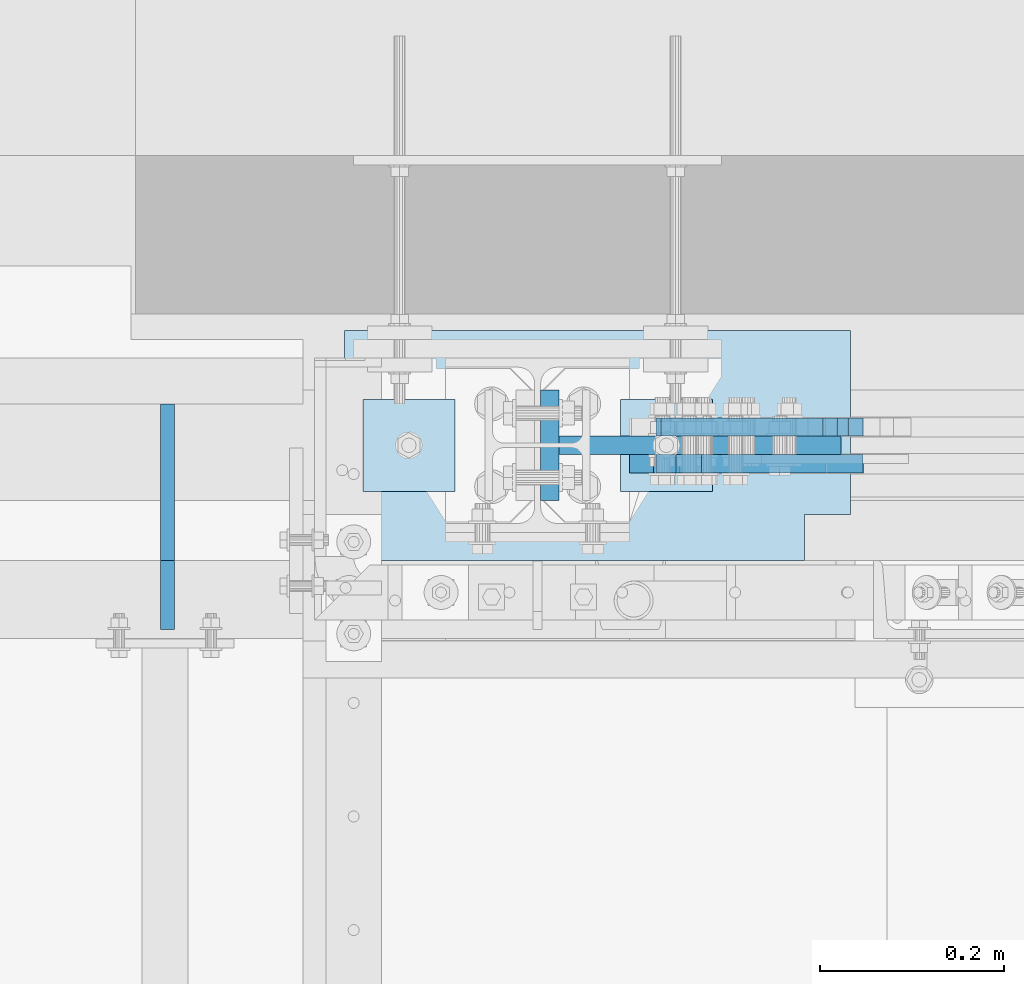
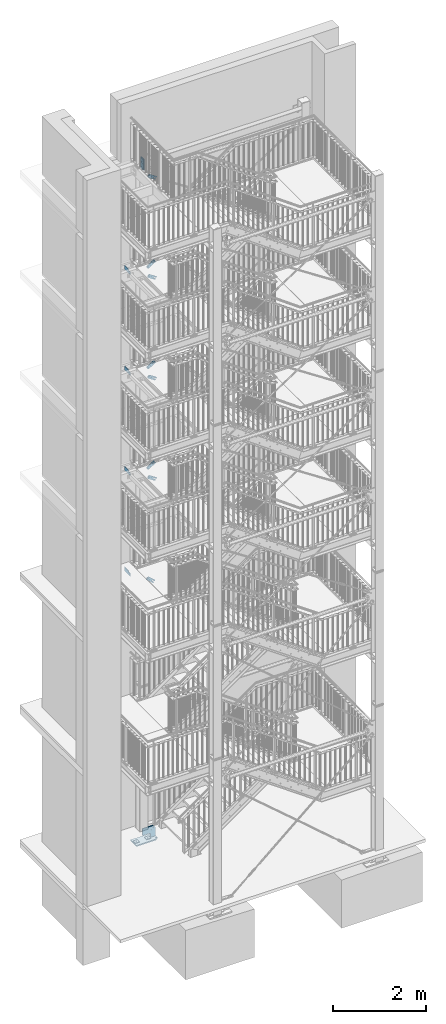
# One storey, part 180 of 825: 17 plates, 39 openings.
"""IFC2X3 building model written with IfcOpenShell, lengths in millimetres."""

from ifc_helpers import new_model, entity, si_unit, converted_unit, point, frame, frame_2d, origin, origin_with_axes, origin_2d_with_axis, place, context, project, spatial, polyline, circle_curve, line_curve, trimmed, segment, composite_curve, circle, outline, extrude, material, layer, layer_set, element, save


model = new_model("IFC2X3")

# Units and contexts
model_context = context("Model", 3, precision=1e-09, world=origin_with_axes())
ifc_project = project(units=[si_unit("LENGTHUNIT", "METRE", prefix="MILLI"), si_unit("AREAUNIT", "SQUARE_METRE"), si_unit("VOLUMEUNIT", "CUBIC_METRE"), converted_unit("PLANEANGLEUNIT", "DEGREE", entity("IfcPlaneAngleMeasure", 0.01745329), si_unit("PLANEANGLEUNIT", "RADIAN"), dimensions=[0, 0, 0, 0, 0, 0, 0])], contexts=[model_context])

# Site, building, storey
site_placement = place(None, origin_with_axes())
site = spatial("IfcSite", under=ifc_project, at=site_placement, Name="Cnopf'sche Kinderklinik", CompositionType="ELEMENT")
building_placement = place(site_placement, origin_with_axes())
building = spatial("IfcBuilding", under=site, at=building_placement, Name="Struktur 1", CompositionType="ELEMENT")
storey_placement = place(building_placement, origin_with_axes())
storey = spatial("IfcBuildingStorey", under=building, at=storey_placement, Name="Default Storey", CompositionType="ELEMENT", Elevation=0.0)

# Plate, opening
ifc_material = material(Name="S235JR")
ifc_layer_1 = layer(ifc_material, 12.0)
ifc_layer_set_1 = layer_set([ifc_layer_1], Name="S235JR")
plate_1_placement = place(None, frame((4996.713402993, 7516.736971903, 60.0), z_axis=(0.0, 0.0, 1.0), x_axis=(1.0, 0.0, 0.0)))
plate_1 = element("IfcPlate", 1, at=plate_1_placement, inside=storey, material=ifc_layer_set_1, Name="-", ObjectType="-", context=model_context, shape_type="SweptSolid", body=[
    extrude(outline(polyline([(-50.0, -50.0), (50.0, -50.0), (50.0, 50.0), (-50.0, 50.0), (-50.0, -50.0)])), origin_with_axes(), (0.0, 0.0, 1.0), 12.0),
])
opening_1_placement = place(plate_1_placement, frame((1e-09, 1e-09, -0.5), z_axis=(0.0, 0.0, 1.0), x_axis=(1.0, 0.0, 0.0)))
element("IfcOpeningElement", 2, at=opening_1_placement, cuts=plate_1, ObjectType="Opening", context=model_context, shape_type="SweptSolid", body=[
    extrude(circle(Radius=9.001, at=origin_2d_with_axis()), origin(), (0.0, 0.0, 1.0), 13.0),
])

plate_2_placement = place(None, frame((4716.713402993, 7516.736971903, 60.0), z_axis=(0.0, 0.0, 1.0), x_axis=(1.0, 0.0, 0.0)))
plate_2 = element("IfcPlate", 3, at=plate_2_placement, inside=storey, material=ifc_layer_set_1, Name="-", ObjectType="-", context=model_context, shape_type="SweptSolid", body=[
    extrude(outline(polyline([(-50.0, -50.0), (50.0, -50.0), (50.0, 50.0), (-50.0, 50.0), (-50.0, -50.0)])), origin_with_axes(), (0.0, 0.0, 1.0), 12.0),
])
opening_2_placement = place(plate_2_placement, frame((1e-09, 1e-09, -0.5), z_axis=(0.0, 0.0, 1.0), x_axis=(1.0, 0.0, 0.0)))
element("IfcOpeningElement", 4, at=opening_2_placement, cuts=plate_2, ObjectType="Opening", context=model_context, shape_type="SweptSolid", body=[
    extrude(circle(Radius=9.001, at=origin_2d_with_axis()), origin(), (0.0, 0.0, 1.0), 13.0),
])

# Plate, openings
ifc_layer_2 = layer(ifc_material, 30.0)
ifc_layer_set_2 = layer_set([ifc_layer_2], Name="S235JR")
plate_3_placement = place(None, frame((4921.713402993, 7516.736971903, 30.0), z_axis=(0.0, 0.0, 1.0), x_axis=(1.0, 0.0, 0.0)))
plate_3 = element("IfcPlate", 5, at=plate_3_placement, inside=storey, material=ifc_layer_set_2, Name="-", ObjectType="-", context=model_context, shape_type="SweptSolid", body=[
    extrude(outline(polyline([(-275.0, -125.0), (275.0, -125.0), (275.0, 125.0), (-275.0, 125.0), (-275.0, -125.0)])), origin_with_axes(), (0.0, 0.0, 1.0), 30.0),
])
opening_3_placement = place(plate_3_placement, frame((-65.0, 0.0, -0.5), z_axis=(0.0, 0.0, 1.0), x_axis=(1.0, 0.0, 0.0)))
element("IfcOpeningElement", 6, at=opening_3_placement, cuts=plate_3, ObjectType="Opening", context=model_context, shape_type="SweptSolid", body=[
    extrude(circle(Radius=28.001, at=frame_2d((140.0, 0.0), x_axis=(1.0, 0.0))), origin(), (0.0, 0.0, 1.0), 31.0),
])
opening_4_placement = place(plate_3_placement, frame((-65.0, 0.0, -0.5), z_axis=(0.0, 0.0, 1.0), x_axis=(1.0, 0.0, 0.0)))
element("IfcOpeningElement", 7, at=opening_4_placement, cuts=plate_3, ObjectType="Opening", context=model_context, shape_type="SweptSolid", body=[
    extrude(circle(Radius=28.001, at=frame_2d((-140.0, 0.0), x_axis=(1.0, 0.0))), origin(), (0.0, 0.0, 1.0), 31.0),
])
opening_5_placement = place(plate_3_placement, frame((0.0, 0.0, -0.1), z_axis=(0.0, 0.0, 1.0), x_axis=(1.0, 0.0, 0.0)))
element("IfcOpeningElement", 8, at=opening_5_placement, cuts=plate_3, ObjectType="Opening", context=model_context, shape_type="SweptSolid", body=[
    extrude(outline(polyline([(224.999, -185.913522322), (358.335332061, -185.913522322), (358.335332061, -74.999), (224.999, -74.999), (224.999, -185.913522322)])), origin(), (0.0, 0.0, 1.0), 30.2),
])

ifc_layer_3 = layer(ifc_material, 20.0)
ifc_layer_set_3 = layer_set([ifc_layer_3], Name="S235JR")
plate_4_placement = place(None, frame((5023.338402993, 7526.736971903, 206.477386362), z_axis=(0.0, -1.0, 0.0), x_axis=(1.0, 0.0, 0.0)))
plate_4 = element("IfcPlate", 9, at=plate_4_placement, inside=storey, material=ifc_layer_set_3, Name="-", ObjectType="-", context=model_context, shape_type="SweptSolid", body=[
    extrude(outline(polyline([(-163.375, -146.477386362), (163.375, -146.477386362), (163.375, 146.477386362), (-163.375, 146.477386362), (-163.375, -146.477386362)])), origin_with_axes(), (0.0, 0.0, 1.0), 20.0),
])
opening_6_placement = place(plate_4_placement, frame((0.0, 0.0, -0.1), z_axis=(0.0, 0.0, 1.0), x_axis=(1.0, 0.0, 0.0)))
element("IfcOpeningElement", 10, at=opening_6_placement, cuts=plate_4, ObjectType="Opening", context=model_context, shape_type="SweptSolid", body=[
    extrude(outline(composite_curve([segment(trimmed(circle_curve(frame_2d((-198.468160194, -200.200309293), x_axis=(1.0, 0.0)), 40.0), [point((-238.468160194, -200.200309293))], [point((-198.468160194, -240.200309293))], True, "CARTESIAN"), True, "CONTINUOUS"), segment(trimmed(line_curve((-198.468160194, -240.200309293), (1.0, 0.0), 201.844160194), [point((-198.468160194, -240.200309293))], [point((3.376, -240.200309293))], True, "CARTESIAN"), True, "CONTINUOUS"), segment(trimmed(circle_curve(frame_2d((3.376, -200.200309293), x_axis=(1.0, 0.0)), 40.0), [point((3.376, -240.200309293))], [point((43.376, -200.200309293))], True, "CARTESIAN"), True, "CONTINUOUS"), segment(trimmed(line_curve((43.376, -200.200309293), (0.0, 1.0), 126.678695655), [point((43.376, -200.200309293))], [point((43.376, -73.521613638))], True, "CARTESIAN"), True, "CONTINUOUS"), segment(trimmed(circle_curve(frame_2d((3.376, -73.521613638), x_axis=(1.0, 0.0)), 40.0), [point((43.376, -73.521613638))], [point((3.376, -33.521613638))], True, "CARTESIAN"), True, "CONTINUOUS"), segment(trimmed(line_curve((3.376, -33.521613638), (-1.0, 0.0), 201.844160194), [point((3.376, -33.521613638))], [point((-198.468160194, -33.521613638))], True, "CARTESIAN"), True, "CONTINUOUS"), segment(trimmed(circle_curve(frame_2d((-198.468160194, -73.521613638), x_axis=(1.0, 0.0)), 40.0), [point((-198.468160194, -33.521613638))], [point((-238.468160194, -73.521613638))], True, "CARTESIAN"), True, "CONTINUOUS"), segment(trimmed(line_curve((-238.468160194, -73.521613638), (0.0, -1.0), 126.678695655), [point((-238.468160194, -73.521613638))], [point((-238.468160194, -200.200309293))], True, "CARTESIAN"), True, "CONTINUOUS")], self_intersect=False)), origin(), (0.0, 0.0, 1.0), 20.2),
])
opening_7_placement = place(plate_4_placement, frame((0.0, 0.0, -0.1), z_axis=(0.0, 0.0, 1.0), x_axis=(1.0, 0.0, 0.0)))
element("IfcOpeningElement", 11, at=opening_7_placement, cuts=plate_4, ObjectType="Opening", context=model_context, shape_type="SweptSolid", body=[
    extrude(outline(polyline([(209.75372237, 203.90627729), (82.436636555, 172.110810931), (190.565352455, 45.142684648), (209.75372237, 203.90627729)])), origin(), (0.0, 0.0, 1.0), 20.2),
])
opening_8_placement = place(plate_4_placement, frame((84.230571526, 69.471100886, -0.5), z_axis=(0.0, 0.0, 1.0), x_axis=(0.757867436, 0.652408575, 0.0)))
element("IfcOpeningElement", 12, at=opening_8_placement, cuts=plate_4, ObjectType="Opening", context=model_context, shape_type="SweptSolid", body=[
    extrude(circle(Radius=9.001, at=frame_2d((30.0, 0.0), x_axis=(1.0, 0.0))), origin(), (0.0, 0.0, 1.0), 21.0),
])
opening_9_placement = place(plate_4_placement, frame((84.230571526, 69.471100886, -0.5), z_axis=(0.0, 0.0, 1.0), x_axis=(0.757867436, 0.652408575, 0.0)))
element("IfcOpeningElement", 13, at=opening_9_placement, cuts=plate_4, ObjectType="Opening", context=model_context, shape_type="SweptSolid", body=[
    extrude(circle(Radius=9.001, at=frame_2d((-30.0, 0.0), x_axis=(1.0, 0.0))), origin(), (0.0, 0.0, 1.0), 21.0),
])

plate_5_placement = place(None, frame((4879.963402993, 7516.736971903, 17753.999999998), z_axis=(1.0, 0.0, 0.0), x_axis=(0.0, 0.0, -1.0)))
plate_5 = element("IfcPlate", 14, at=plate_5_placement, inside=storey, material=ifc_layer_set_3, Name="Endplate", ObjectType="Endplate", context=model_context, shape_type="SweptSolid", body=[
    extrude(outline(polyline([(-150.0, -60.0), (150.0, -60.0), (150.0, 60.0), (-150.0, 60.0), (-150.0, -60.0)])), origin_with_axes(), (0.0, 0.0, -1.0), 20.0),
])
opening_10_placement = place(plate_5_placement, frame((-55.2, 18.1, -20.5), z_axis=(0.0, 0.0, 1.0), x_axis=(1.0, 0.0, 0.0)))
element("IfcOpeningElement", 15, at=opening_10_placement, cuts=plate_5, ObjectType="Opening", context=model_context, shape_type="SweptSolid", body=[
    extrude(circle(Radius=6.001, at=origin_2d_with_axis()), origin(), (0.0, 0.0, 1.0), 21.0),
])
opening_11_placement = place(plate_5_placement, frame((135.2, 18.1, -20.5), z_axis=(0.0, 0.0, 1.0), x_axis=(1.0, 0.0, 0.0)))
element("IfcOpeningElement", 16, at=opening_11_placement, cuts=plate_5, ObjectType="Opening", context=model_context, shape_type="SweptSolid", body=[
    extrude(circle(Radius=6.001, at=origin_2d_with_axis()), origin(), (0.0, 0.0, 1.0), 21.0),
])
opening_12_placement = place(plate_5_placement, frame((135.2, -18.1, -20.5), z_axis=(0.0, 0.0, 1.0), x_axis=(1.0, 0.0, 0.0)))
element("IfcOpeningElement", 17, at=opening_12_placement, cuts=plate_5, ObjectType="Opening", context=model_context, shape_type="SweptSolid", body=[
    extrude(circle(Radius=6.001, at=origin_2d_with_axis()), origin(), (0.0, 0.0, 1.0), 21.0),
])
opening_13_placement = place(plate_5_placement, frame((-55.2, -18.1, -20.5), z_axis=(0.0, 0.0, 1.0), x_axis=(1.0, 0.0, 0.0)))
element("IfcOpeningElement", 18, at=opening_13_placement, cuts=plate_5, ObjectType="Opening", context=model_context, shape_type="SweptSolid", body=[
    extrude(circle(Radius=6.001, at=origin_2d_with_axis()), origin(), (0.0, 0.0, 1.0), 21.0),
])
opening_14_placement = place(plate_5_placement, frame((-20.0, -35.0, 0.5), z_axis=(0.0, 0.0, -1.0), x_axis=(0.0, -1.0, 0.0)))
element("IfcOpeningElement", 19, at=opening_14_placement, cuts=plate_5, ObjectType="Opening", context=model_context, shape_type="SweptSolid", body=[
    extrude(circle(Radius=9.001, at=origin_2d_with_axis()), origin(), (0.0, 0.0, 1.0), 21.0),
])
opening_15_placement = place(plate_5_placement, frame((-120.0, -35.0, 0.5), z_axis=(0.0, 0.0, -1.0), x_axis=(0.0, -1.0, 0.0)))
element("IfcOpeningElement", 20, at=opening_15_placement, cuts=plate_5, ObjectType="Opening", context=model_context, shape_type="SweptSolid", body=[
    extrude(circle(Radius=9.001, at=origin_2d_with_axis()), origin(), (0.0, 0.0, 1.0), 21.0),
])
opening_16_placement = place(plate_5_placement, frame((-20.0, 35.0, 0.5), z_axis=(0.0, 0.0, -1.0), x_axis=(0.0, 1.0, 0.0)))
element("IfcOpeningElement", 21, at=opening_16_placement, cuts=plate_5, ObjectType="Opening", context=model_context, shape_type="SweptSolid", body=[
    extrude(circle(Radius=9.001, at=origin_2d_with_axis()), origin(), (0.0, 0.0, 1.0), 21.0),
])
opening_17_placement = place(plate_5_placement, frame((-120.0, 35.0, 0.5), z_axis=(0.0, 0.0, -1.0), x_axis=(0.0, 1.0, 0.0)))
element("IfcOpeningElement", 22, at=opening_17_placement, cuts=plate_5, ObjectType="Opening", context=model_context, shape_type="SweptSolid", body=[
    extrude(circle(Radius=9.001, at=origin_2d_with_axis()), origin(), (0.0, 0.0, 1.0), 21.0),
])
opening_18_placement = place(plate_5_placement, frame((100.0, -35.0, 0.5), z_axis=(0.0, 0.0, -1.0), x_axis=(0.0, -1.0, 0.0)))
element("IfcOpeningElement", 23, at=opening_18_placement, cuts=plate_5, ObjectType="Opening", context=model_context, shape_type="SweptSolid", body=[
    extrude(circle(Radius=9.001, at=origin_2d_with_axis()), origin(), (0.0, 0.0, 1.0), 21.0),
])
opening_19_placement = place(plate_5_placement, frame((100.0, 35.0, 0.5), z_axis=(0.0, 0.0, -1.0), x_axis=(0.0, 1.0, 0.0)))
element("IfcOpeningElement", 24, at=opening_19_placement, cuts=plate_5, ObjectType="Opening", context=model_context, shape_type="SweptSolid", body=[
    extrude(circle(Radius=9.001, at=origin_2d_with_axis()), origin(), (0.0, 0.0, 1.0), 21.0),
])

# Plate, opening
ifc_layer_4 = layer(ifc_material, 15.0)
ifc_layer_set_4 = layer_set([ifc_layer_4], Name="S235JR")
plate_6_placement = place(None, frame((4461.713402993, 7439.236971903, 7270.0), z_axis=(-1.0, 0.0, 0.0), x_axis=(0.0, -1.0, 0.0)))
plate_6 = element("IfcPlate", 25, at=plate_6_placement, inside=storey, material=ifc_layer_set_4, Name="-", ObjectType="-", context=model_context, shape_type="SweptSolid", body=[
    extrude(outline(polyline([(-122.5, -50.0), (122.5, -50.0), (122.5, 50.0), (-122.5, 50.0), (-122.5, -50.0)])), origin_with_axes(), (0.0, 0.0, 1.0), 15.0),
])
opening_20_placement = place(plate_6_placement, frame((0.0, 0.0, -0.1), z_axis=(0.0, 0.0, 1.0), x_axis=(1.0, 0.0, 0.0)))
element("IfcOpeningElement", 26, at=opening_20_placement, cuts=plate_6, ObjectType="Opening", context=model_context, shape_type="SweptSolid", body=[
    extrude(outline(composite_curve([segment(trimmed(circle_curve(frame_2d((57.499, 29.999), x_axis=(1.0, 0.0)), 10.0), [point((47.499, 29.999))], [point((57.499, 19.999))], True, "CARTESIAN"), True, "CONTINUOUS"), segment(trimmed(line_curve((57.499, 19.999), (1.0, 0.0), 93.063804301), [point((57.499, 19.999))], [point((150.562804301, 19.999))], True, "CARTESIAN"), True, "CONTINUOUS"), segment(trimmed(circle_curve(frame_2d((150.562804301, 29.999), x_axis=(1.0, 0.0)), 10.0), [point((150.562804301, 19.999))], [point((160.562804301, 29.999))], True, "CARTESIAN"), True, "CONTINUOUS"), segment(trimmed(line_curve((160.562804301, 29.999), (0.0, 1.0), 40.184858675), [point((160.562804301, 29.999))], [point((160.562804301, 70.183858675))], True, "CARTESIAN"), True, "CONTINUOUS"), segment(trimmed(circle_curve(frame_2d((150.562804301, 70.183858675), x_axis=(1.0, 0.0)), 10.0), [point((160.562804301, 70.183858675))], [point((150.562804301, 80.183858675))], True, "CARTESIAN"), True, "CONTINUOUS"), segment(trimmed(line_curve((150.562804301, 80.183858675), (-1.0, 0.0), 93.063804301), [point((150.562804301, 80.183858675))], [point((57.499, 80.183858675))], True, "CARTESIAN"), True, "CONTINUOUS"), segment(trimmed(circle_curve(frame_2d((57.499, 70.183858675), x_axis=(1.0, 0.0)), 10.0), [point((57.499, 80.183858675))], [point((47.499, 70.183858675))], True, "CARTESIAN"), True, "CONTINUOUS"), segment(trimmed(line_curve((47.499, 70.183858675), (0.0, -1.0), 40.184858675), [point((47.499, 70.183858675))], [point((47.499, 29.999))], True, "CARTESIAN"), True, "CONTINUOUS")], self_intersect=False)), origin(), (0.0, 0.0, 1.0), 15.2),
])

plate_7_placement = place(None, frame((4461.713402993, 7439.236971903, 9902.0), z_axis=(-1.0, 0.0, 0.0), x_axis=(0.0, -1.0, 0.0)))
plate_7 = element("IfcPlate", 27, at=plate_7_placement, inside=storey, material=ifc_layer_set_4, Name="-", ObjectType="-", context=model_context, shape_type="SweptSolid", body=[
    extrude(outline(polyline([(-122.5, -50.0), (122.5, -50.0), (122.5, 50.0), (-122.5, 50.0), (-122.5, -50.0)])), origin_with_axes(), (0.0, 0.0, 1.0), 15.0),
])
opening_21_placement = place(plate_7_placement, frame((0.0, 0.0, -0.1), z_axis=(0.0, 0.0, 1.0), x_axis=(1.0, 0.0, 0.0)))
element("IfcOpeningElement", 28, at=opening_21_placement, cuts=plate_7, ObjectType="Opening", context=model_context, shape_type="SweptSolid", body=[
    extrude(outline(composite_curve([segment(trimmed(circle_curve(frame_2d((57.499, 29.999), x_axis=(1.0, 0.0)), 10.0), [point((47.499, 29.999))], [point((57.499, 19.999))], True, "CARTESIAN"), True, "CONTINUOUS"), segment(trimmed(line_curve((57.499, 19.999), (1.0, 0.0), 93.063804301), [point((57.499, 19.999))], [point((150.562804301, 19.999))], True, "CARTESIAN"), True, "CONTINUOUS"), segment(trimmed(circle_curve(frame_2d((150.562804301, 29.999), x_axis=(1.0, 0.0)), 10.0), [point((150.562804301, 19.999))], [point((160.562804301, 29.999))], True, "CARTESIAN"), True, "CONTINUOUS"), segment(trimmed(line_curve((160.562804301, 29.999), (0.0, 1.0), 40.184858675), [point((160.562804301, 29.999))], [point((160.562804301, 70.183858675))], True, "CARTESIAN"), True, "CONTINUOUS"), segment(trimmed(circle_curve(frame_2d((150.562804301, 70.183858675), x_axis=(1.0, 0.0)), 10.0), [point((160.562804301, 70.183858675))], [point((150.562804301, 80.183858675))], True, "CARTESIAN"), True, "CONTINUOUS"), segment(trimmed(line_curve((150.562804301, 80.183858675), (-1.0, 0.0), 93.063804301), [point((150.562804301, 80.183858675))], [point((57.499, 80.183858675))], True, "CARTESIAN"), True, "CONTINUOUS"), segment(trimmed(circle_curve(frame_2d((57.499, 70.183858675), x_axis=(1.0, 0.0)), 10.0), [point((57.499, 80.183858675))], [point((47.499, 70.183858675))], True, "CARTESIAN"), True, "CONTINUOUS"), segment(trimmed(line_curve((47.499, 70.183858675), (0.0, -1.0), 40.184858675), [point((47.499, 70.183858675))], [point((47.499, 29.999))], True, "CARTESIAN"), True, "CONTINUOUS")], self_intersect=False)), origin(), (0.0, 0.0, 1.0), 15.2),
])

plate_8_placement = place(None, frame((4461.713402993, 7439.236971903, 12529.0), z_axis=(-1.0, 0.0, 0.0), x_axis=(0.0, -1.0, 0.0)))
plate_8 = element("IfcPlate", 29, at=plate_8_placement, inside=storey, material=ifc_layer_set_4, Name="-", ObjectType="-", context=model_context, shape_type="SweptSolid", body=[
    extrude(outline(polyline([(-122.5, -50.0), (122.5, -50.0), (122.5, 50.0), (-122.5, 50.0), (-122.5, -50.0)])), origin_with_axes(), (0.0, 0.0, 1.0), 15.0),
])
opening_22_placement = place(plate_8_placement, frame((0.0, 0.0, -0.1), z_axis=(0.0, 0.0, 1.0), x_axis=(1.0, 0.0, 0.0)))
element("IfcOpeningElement", 30, at=opening_22_placement, cuts=plate_8, ObjectType="Opening", context=model_context, shape_type="SweptSolid", body=[
    extrude(outline(composite_curve([segment(trimmed(circle_curve(frame_2d((57.499, 29.999), x_axis=(1.0, 0.0)), 10.0), [point((47.499, 29.999))], [point((57.499, 19.999))], True, "CARTESIAN"), True, "CONTINUOUS"), segment(trimmed(line_curve((57.499, 19.999), (1.0, 0.0), 93.063804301), [point((57.499, 19.999))], [point((150.562804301, 19.999))], True, "CARTESIAN"), True, "CONTINUOUS"), segment(trimmed(circle_curve(frame_2d((150.562804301, 29.999), x_axis=(1.0, 0.0)), 10.0), [point((150.562804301, 19.999))], [point((160.562804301, 29.999))], True, "CARTESIAN"), True, "CONTINUOUS"), segment(trimmed(line_curve((160.562804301, 29.999), (0.0, 1.0), 40.184858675), [point((160.562804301, 29.999))], [point((160.562804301, 70.183858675))], True, "CARTESIAN"), True, "CONTINUOUS"), segment(trimmed(circle_curve(frame_2d((150.562804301, 70.183858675), x_axis=(1.0, 0.0)), 10.0), [point((160.562804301, 70.183858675))], [point((150.562804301, 80.183858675))], True, "CARTESIAN"), True, "CONTINUOUS"), segment(trimmed(line_curve((150.562804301, 80.183858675), (-1.0, 0.0), 93.063804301), [point((150.562804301, 80.183858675))], [point((57.499, 80.183858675))], True, "CARTESIAN"), True, "CONTINUOUS"), segment(trimmed(circle_curve(frame_2d((57.499, 70.183858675), x_axis=(1.0, 0.0)), 10.0), [point((57.499, 80.183858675))], [point((47.499, 70.183858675))], True, "CARTESIAN"), True, "CONTINUOUS"), segment(trimmed(line_curve((47.499, 70.183858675), (0.0, -1.0), 40.184858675), [point((47.499, 70.183858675))], [point((47.499, 29.999))], True, "CARTESIAN"), True, "CONTINUOUS")], self_intersect=False)), origin(), (0.0, 0.0, 1.0), 15.2),
])

plate_9_placement = place(None, frame((4461.713402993, 7439.236971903, 15164.0), z_axis=(-1.0, 0.0, 0.0), x_axis=(0.0, -1.0, 0.0)))
plate_9 = element("IfcPlate", 31, at=plate_9_placement, inside=storey, material=ifc_layer_set_4, Name="-", ObjectType="-", context=model_context, shape_type="SweptSolid", body=[
    extrude(outline(polyline([(-122.5, -50.0), (122.5, -50.0), (122.5, 50.0), (-122.5, 50.0), (-122.5, -50.0)])), origin_with_axes(), (0.0, 0.0, 1.0), 15.0),
])
opening_23_placement = place(plate_9_placement, frame((0.0, 0.0, -0.1), z_axis=(0.0, 0.0, 1.0), x_axis=(1.0, 0.0, 0.0)))
element("IfcOpeningElement", 32, at=opening_23_placement, cuts=plate_9, ObjectType="Opening", context=model_context, shape_type="SweptSolid", body=[
    extrude(outline(composite_curve([segment(trimmed(circle_curve(frame_2d((57.499, 29.999), x_axis=(1.0, 0.0)), 10.0), [point((47.499, 29.999))], [point((57.499, 19.999))], True, "CARTESIAN"), True, "CONTINUOUS"), segment(trimmed(line_curve((57.499, 19.999), (1.0, 0.0), 93.063804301), [point((57.499, 19.999))], [point((150.562804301, 19.999))], True, "CARTESIAN"), True, "CONTINUOUS"), segment(trimmed(circle_curve(frame_2d((150.562804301, 29.999), x_axis=(1.0, 0.0)), 10.0), [point((150.562804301, 19.999))], [point((160.562804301, 29.999))], True, "CARTESIAN"), True, "CONTINUOUS"), segment(trimmed(line_curve((160.562804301, 29.999), (0.0, 1.0), 40.184858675), [point((160.562804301, 29.999))], [point((160.562804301, 70.183858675))], True, "CARTESIAN"), True, "CONTINUOUS"), segment(trimmed(circle_curve(frame_2d((150.562804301, 70.183858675), x_axis=(1.0, 0.0)), 10.0), [point((160.562804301, 70.183858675))], [point((150.562804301, 80.183858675))], True, "CARTESIAN"), True, "CONTINUOUS"), segment(trimmed(line_curve((150.562804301, 80.183858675), (-1.0, 0.0), 93.063804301), [point((150.562804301, 80.183858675))], [point((57.499, 80.183858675))], True, "CARTESIAN"), True, "CONTINUOUS"), segment(trimmed(circle_curve(frame_2d((57.499, 70.183858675), x_axis=(1.0, 0.0)), 10.0), [point((57.499, 80.183858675))], [point((47.499, 70.183858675))], True, "CARTESIAN"), True, "CONTINUOUS"), segment(trimmed(line_curve((47.499, 70.183858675), (0.0, -1.0), 40.184858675), [point((47.499, 70.183858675))], [point((47.499, 29.999))], True, "CARTESIAN"), True, "CONTINUOUS")], self_intersect=False)), origin(), (0.0, 0.0, 1.0), 15.2),
])

# Plate, openings
plate_10_placement = place(None, frame((5136.378489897, 7506.736971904, 6728.234258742), z_axis=(0.0, 1.0, 0.0), x_axis=(-0.654679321, 0.0, -0.755906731)))
plate_10 = element("IfcPlate", 33, at=plate_10_placement, inside=storey, material=ifc_layer_set_3, Name="-", ObjectType="-", context=model_context, shape_type="SweptSolid", body=[
    extrude(outline(polyline([(0.0, 0.0), (29.0, 0.0), (29.0, 210.0), (9.0, 230.0), (-31.0, 230.0), (-51.0, 210.0), (-51.0, 0.0), (-22.0, 0.0), (-22.0, 80.0), (0.0, 80.0), (0.0, 0.0)])), origin_with_axes(), (0.0, 0.0, -1.0), 20.0),
])
opening_24_placement = place(plate_10_placement, frame((-11.0, 149.001, 0.5), z_axis=(0.0, 0.0, 1.0), x_axis=(1.0, 0.0, 0.0)))
element("IfcOpeningElement", 34, at=opening_24_placement, cuts=plate_10, ObjectType="Opening", context=model_context, shape_type="SweptSolid", body=[
    extrude(circle(Radius=9.001, at=frame_2d((0.0, -9.001), x_axis=(1.0, 0.0))), origin(), (0.0, 0.0, -1.0), 21.0),
])
opening_25_placement = place(plate_10_placement, frame((-11.0, 209.001, 0.5), z_axis=(0.0, 0.0, 1.0), x_axis=(1.0, 0.0, 0.0)))
element("IfcOpeningElement", 35, at=opening_25_placement, cuts=plate_10, ObjectType="Opening", context=model_context, shape_type="SweptSolid", body=[
    extrude(circle(Radius=9.001, at=frame_2d((0.0, -9.001), x_axis=(1.0, 0.0))), origin(), (0.0, 0.0, -1.0), 21.0),
])

plate_11_placement = place(None, frame((5182.60391541, 7506.736971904, 9389.94099275), z_axis=(0.0, 1.0, 0.0), x_axis=(-0.548720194, 0.0, -0.83600607)))
plate_11 = element("IfcPlate", 36, at=plate_11_placement, inside=storey, material=ifc_layer_set_3, Name="-", ObjectType="-", context=model_context, shape_type="SweptSolid", body=[
    extrude(outline(polyline([(0.0, 0.0), (29.0, 0.0), (29.0, 210.0), (9.0, 230.0), (-31.0, 230.0), (-51.0, 210.0), (-51.0, 0.0), (-22.0, 0.0), (-22.0, 80.0), (0.0, 80.0), (0.0, 0.0)])), origin_with_axes(), (0.0, 0.0, -1.0), 20.0),
])
opening_26_placement = place(plate_11_placement, frame((-11.0, 149.001, 0.5), z_axis=(0.0, 0.0, 1.0), x_axis=(1.0, 0.0, 0.0)))
element("IfcOpeningElement", 37, at=opening_26_placement, cuts=plate_11, ObjectType="Opening", context=model_context, shape_type="SweptSolid", body=[
    extrude(circle(Radius=9.001, at=frame_2d((0.0, -9.001), x_axis=(1.0, 0.0))), origin(), (0.0, 0.0, -1.0), 21.0),
])
opening_27_placement = place(plate_11_placement, frame((-11.0, 209.001, 0.5), z_axis=(0.0, 0.0, 1.0), x_axis=(1.0, 0.0, 0.0)))
element("IfcOpeningElement", 38, at=opening_27_placement, cuts=plate_11, ObjectType="Opening", context=model_context, shape_type="SweptSolid", body=[
    extrude(circle(Radius=9.001, at=frame_2d((0.0, -9.001), x_axis=(1.0, 0.0))), origin(), (0.0, 0.0, -1.0), 21.0),
])

plate_12_placement = place(None, frame((5182.641566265, 7546.736971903, 9843.734363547), z_axis=(0.0, -1.0, 0.0), x_axis=(-0.54798027, 0.0, 0.836491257)))
plate_12 = element("IfcPlate", 39, at=plate_12_placement, inside=storey, material=ifc_layer_set_3, Name="-", ObjectType="-", context=model_context, shape_type="SweptSolid", body=[
    extrude(outline(polyline([(0.0, 0.0), (29.0, 0.0), (29.0, 210.0), (9.0, 230.0), (-31.0, 230.0), (-51.0, 210.0), (-51.0, 0.0), (-22.0, 0.0), (-22.0, 80.0), (0.0, 80.0), (0.0, 0.0)])), origin_with_axes(), (0.0, 0.0, 1.0), 20.0),
])
opening_28_placement = place(plate_12_placement, frame((-11.0, 170.0, -0.5), z_axis=(0.0, 0.0, 1.0), x_axis=(0.0, -1.0, 0.0)))
element("IfcOpeningElement", 40, at=opening_28_placement, cuts=plate_12, ObjectType="Opening", context=model_context, shape_type="SweptSolid", body=[
    extrude(circle(Radius=9.001, at=frame_2d((30.0, 0.0), x_axis=(1.0, 0.0))), origin(), (0.0, 0.0, 1.0), 21.0),
])
opening_29_placement = place(plate_12_placement, frame((-11.0, 170.0, -0.5), z_axis=(0.0, 0.0, 1.0), x_axis=(0.0, -1.0, 0.0)))
element("IfcOpeningElement", 41, at=opening_29_placement, cuts=plate_12, ObjectType="Opening", context=model_context, shape_type="SweptSolid", body=[
    extrude(circle(Radius=9.001, at=frame_2d((-30.0, 0.0), x_axis=(1.0, 0.0))), origin(), (0.0, 0.0, 1.0), 21.0),
])

plate_13_placement = place(None, frame((5182.801474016, 7506.736971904, 12017.225438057), z_axis=(0.0, 1.0, 0.0), x_axis=(-0.547991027, 0.0, -0.83648421)))
plate_13 = element("IfcPlate", 42, at=plate_13_placement, inside=storey, material=ifc_layer_set_3, Name="-", ObjectType="-", context=model_context, shape_type="SweptSolid", body=[
    extrude(outline(polyline([(0.0, 0.0), (29.0, 0.0), (29.0, 210.0), (9.0, 230.0), (-31.0, 230.0), (-51.0, 210.0), (-51.0, 0.0), (-22.0, 0.0), (-22.0, 80.0), (0.0, 80.0), (0.0, 0.0)])), origin_with_axes(), (0.0, 0.0, -1.0), 20.0),
])
opening_30_placement = place(plate_13_placement, frame((-11.0, 149.001, 0.5), z_axis=(0.0, 0.0, 1.0), x_axis=(1.0, 0.0, 0.0)))
element("IfcOpeningElement", 43, at=opening_30_placement, cuts=plate_13, ObjectType="Opening", context=model_context, shape_type="SweptSolid", body=[
    extrude(circle(Radius=9.001, at=frame_2d((0.0, -9.001), x_axis=(1.0, 0.0))), origin(), (0.0, 0.0, -1.0), 21.0),
])
opening_31_placement = place(plate_13_placement, frame((-11.0, 209.001, 0.5), z_axis=(0.0, 0.0, 1.0), x_axis=(1.0, 0.0, 0.0)))
element("IfcOpeningElement", 44, at=opening_31_placement, cuts=plate_13, ObjectType="Opening", context=model_context, shape_type="SweptSolid", body=[
    extrude(circle(Radius=9.001, at=frame_2d((0.0, -9.001), x_axis=(1.0, 0.0))), origin(), (0.0, 0.0, -1.0), 21.0),
])

plate_14_placement = place(None, frame((5182.354870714, 7546.736971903, 12471.143676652), z_axis=(0.0, -1.0, 0.0), x_axis=(-0.549157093, 0.0, 0.835719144)))
plate_14 = element("IfcPlate", 45, at=plate_14_placement, inside=storey, material=ifc_layer_set_3, Name="-", ObjectType="-", context=model_context, shape_type="SweptSolid", body=[
    extrude(outline(polyline([(0.0, 0.0), (29.0, 0.0), (29.0, 210.0), (9.0, 230.0), (-31.0, 230.0), (-51.0, 210.0), (-51.0, 0.0), (-22.0, 0.0), (-22.0, 80.0), (0.0, 80.0), (0.0, 0.0)])), origin_with_axes(), (0.0, 0.0, 1.0), 20.0),
])
opening_32_placement = place(plate_14_placement, frame((-11.0, 170.0, -0.5), z_axis=(0.0, 0.0, 1.0), x_axis=(0.0, -1.0, 0.0)))
element("IfcOpeningElement", 46, at=opening_32_placement, cuts=plate_14, ObjectType="Opening", context=model_context, shape_type="SweptSolid", body=[
    extrude(circle(Radius=9.001, at=frame_2d((30.0, 0.0), x_axis=(1.0, 0.0))), origin(), (0.0, 0.0, 1.0), 21.0),
])
opening_33_placement = place(plate_14_placement, frame((-11.0, 170.0, -0.5), z_axis=(0.0, 0.0, 1.0), x_axis=(0.0, -1.0, 0.0)))
element("IfcOpeningElement", 47, at=opening_33_placement, cuts=plate_14, ObjectType="Opening", context=model_context, shape_type="SweptSolid", body=[
    extrude(circle(Radius=9.001, at=frame_2d((-30.0, 0.0), x_axis=(1.0, 0.0))), origin(), (0.0, 0.0, 1.0), 21.0),
])

plate_15_placement = place(None, frame((5182.485458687, 7506.736971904, 14651.77050571), z_axis=(0.0, 1.0, 0.0), x_axis=(-0.549157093, 0.0, -0.835719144)))
plate_15 = element("IfcPlate", 48, at=plate_15_placement, inside=storey, material=ifc_layer_set_3, Name="-", ObjectType="-", context=model_context, shape_type="SweptSolid", body=[
    extrude(outline(polyline([(0.0, 0.0), (29.0, 0.0), (29.0, 210.0), (9.0, 230.0), (-31.0, 230.0), (-51.0, 210.0), (-51.0, 0.0), (-22.0, 0.0), (-22.0, 80.0), (0.0, 80.0), (0.0, 0.0)])), origin_with_axes(), (0.0, 0.0, -1.0), 20.0),
])
opening_34_placement = place(plate_15_placement, frame((-11.0, 149.001, 0.5), z_axis=(0.0, 0.0, 1.0), x_axis=(1.0, 0.0, 0.0)))
element("IfcOpeningElement", 49, at=opening_34_placement, cuts=plate_15, ObjectType="Opening", context=model_context, shape_type="SweptSolid", body=[
    extrude(circle(Radius=9.001, at=frame_2d((0.0, -9.001), x_axis=(1.0, 0.0))), origin(), (0.0, 0.0, -1.0), 21.0),
])
opening_35_placement = place(plate_15_placement, frame((-11.0, 209.001, 0.5), z_axis=(0.0, 0.0, 1.0), x_axis=(1.0, 0.0, 0.0)))
element("IfcOpeningElement", 50, at=opening_35_placement, cuts=plate_15, ObjectType="Opening", context=model_context, shape_type="SweptSolid", body=[
    extrude(circle(Radius=9.001, at=frame_2d((0.0, -9.001), x_axis=(1.0, 0.0))), origin(), (0.0, 0.0, -1.0), 21.0),
])

plate_16_placement = place(None, frame((5182.948039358, 7546.736971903, 15105.290571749), z_axis=(0.0, -1.0, 0.0), x_axis=(-0.546968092, 0.0, 0.837153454)))
plate_16 = element("IfcPlate", 51, at=plate_16_placement, inside=storey, material=ifc_layer_set_3, Name="-", ObjectType="-", context=model_context, shape_type="SweptSolid", body=[
    extrude(outline(polyline([(0.0, 0.0), (29.0, 0.0), (29.0, 210.0), (9.0, 230.0), (-31.0, 230.0), (-51.0, 210.0), (-51.0, 0.0), (-22.0, 0.0), (-22.0, 80.0), (0.0, 80.0), (0.0, 0.0)])), origin_with_axes(), (0.0, 0.0, 1.0), 20.0),
])
opening_36_placement = place(plate_16_placement, frame((-11.0, 170.0, -0.5), z_axis=(0.0, 0.0, 1.0), x_axis=(0.0, -1.0, 0.0)))
element("IfcOpeningElement", 52, at=opening_36_placement, cuts=plate_16, ObjectType="Opening", context=model_context, shape_type="SweptSolid", body=[
    extrude(circle(Radius=9.001, at=frame_2d((30.0, 0.0), x_axis=(1.0, 0.0))), origin(), (0.0, 0.0, 1.0), 21.0),
])
opening_37_placement = place(plate_16_placement, frame((-11.0, 170.0, -0.5), z_axis=(0.0, 0.0, 1.0), x_axis=(0.0, -1.0, 0.0)))
element("IfcOpeningElement", 53, at=opening_37_placement, cuts=plate_16, ObjectType="Opening", context=model_context, shape_type="SweptSolid", body=[
    extrude(circle(Radius=9.001, at=frame_2d((-30.0, 0.0), x_axis=(1.0, 0.0))), origin(), (0.0, 0.0, 1.0), 21.0),
])

plate_17_placement = place(None, frame((5183.078330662, 7506.736971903, 17272.624292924), z_axis=(0.0, 1.0, 0.0), x_axis=(-0.546968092, 0.0, -0.837153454)))
plate_17 = element("IfcPlate", 54, at=plate_17_placement, inside=storey, material=ifc_layer_set_3, Name="-", ObjectType="-", context=model_context, shape_type="SweptSolid", body=[
    extrude(outline(polyline([(0.0, 0.0), (29.0, 0.0), (29.0, 210.0), (9.0, 230.0), (-31.0, 230.0), (-51.0, 210.0), (-51.0, 0.0), (-22.0, 0.0), (-22.0, 80.0), (0.0, 80.0), (0.0, 0.0)])), origin_with_axes(), (0.0, 0.0, -1.0), 20.0),
])
opening_38_placement = place(plate_17_placement, frame((-11.0, 149.001, 0.5), z_axis=(0.0, 0.0, 1.0), x_axis=(1.0, 0.0, 0.0)))
element("IfcOpeningElement", 55, at=opening_38_placement, cuts=plate_17, ObjectType="Opening", context=model_context, shape_type="SweptSolid", body=[
    extrude(circle(Radius=9.001, at=frame_2d((0.0, -9.001), x_axis=(1.0, 0.0))), origin(), (0.0, 0.0, -1.0), 21.0),
])
opening_39_placement = place(plate_17_placement, frame((-10.999999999, 209.001, 0.5), z_axis=(0.0, 0.0, 1.0), x_axis=(1.0, 0.0, 0.0)))
element("IfcOpeningElement", 56, at=opening_39_placement, cuts=plate_17, ObjectType="Opening", context=model_context, shape_type="SweptSolid", body=[
    extrude(circle(Radius=9.001, at=frame_2d((0.0, -9.001), x_axis=(1.0, 0.0))), origin(), (0.0, 0.0, -1.0), 21.0),
])

save(model, "model.ifc")
